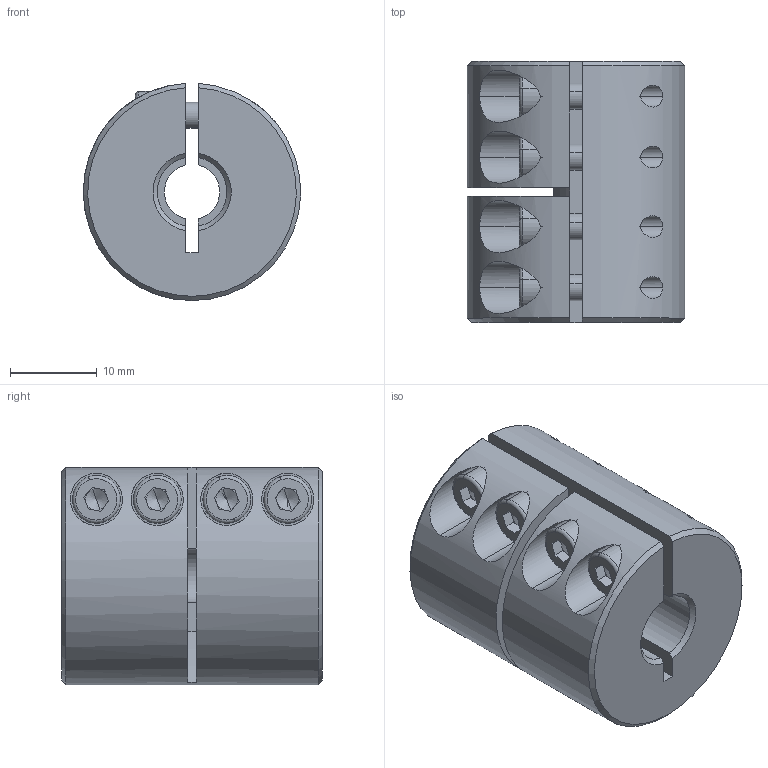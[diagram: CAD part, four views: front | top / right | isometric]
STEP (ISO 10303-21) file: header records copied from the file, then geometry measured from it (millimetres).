
FILE_DESCRIPTION (( 'STEP AP214' ), '1' );
FILE_NAME ('LL-B-D25L30-6.35-8½¨Ä£.STEP', '2022-07-21T03:13:11', ( '' ), ( '' ), 'SwSTEP 2.0', 'SolidWorks 2022', '' );
FILE_SCHEMA (( 'AUTOMOTIVE_DESIGN' ));
Length unit declared in the file: millimetre
Products named in the file (1): LL-B-D25L30-6.35-8膘耀
Bounding box: 24.99 x 30 x 24.98 mm (x, y, z)
Volume: 12327.1 mm3; surface area: 5915.5 mm2
Topology: 1 solids, 1 shells, 164 faces, 418 edges, 264 vertices
Faces by surface type: plane 83, cylinder 58, cone 15, torus 8
Entity records: 5402 total; most frequent: CARTESIAN_POINT 1363, DIRECTION 862, ORIENTED_EDGE 820, EDGE_CURVE 410, AXIS2_PLACEMENT_3D 331, VERTEX_POINT 264, LINE 200, VECTOR 200
